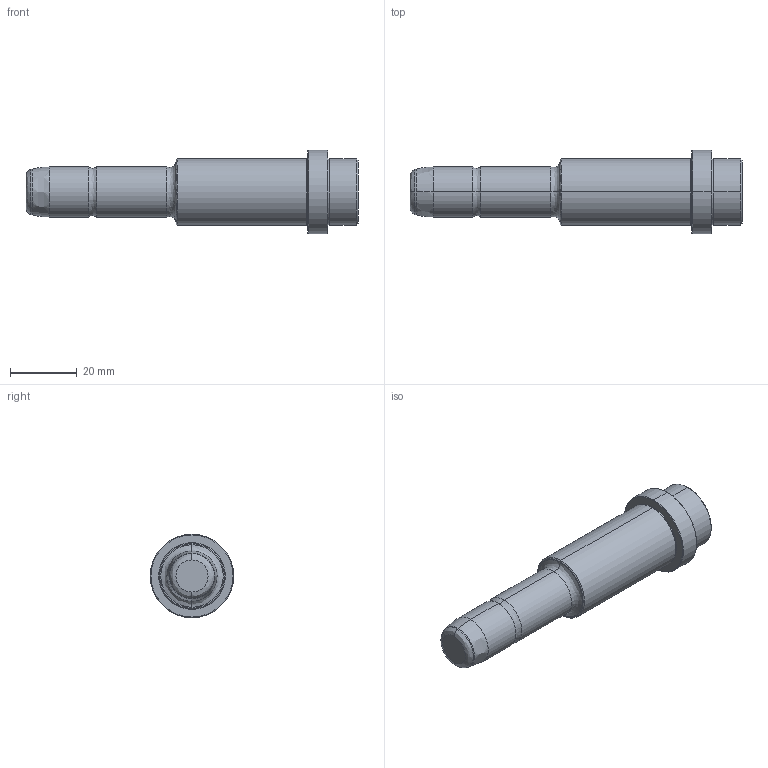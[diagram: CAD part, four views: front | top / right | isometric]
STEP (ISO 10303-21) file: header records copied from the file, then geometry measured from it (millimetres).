
FILE_DESCRIPTION (( 'STEP AP203' ), '1' );
FILE_NAME ('016 Colonne de Guidage.STEP', '2021-10-27T18:23:28', ( '' ), ( '' ), 'SwSTEP 2.0', 'SolidWorks 2019', '' );
FILE_SCHEMA (( 'CONFIG_CONTROL_DESIGN' ));
Length unit declared in the file: millimetre
Products named in the file (1): 016 Colonne de Guidage
Bounding box: 99.5 x 25 x 25 mm (x, y, z)
Volume: 25956.7 mm3; surface area: 6509.3 mm2
Topology: 1 solids, 1 shells, 39 faces, 88 edges, 56 vertices
Faces by surface type: bspline 18, cylinder 14, plane 7
Entity records: 1317 total; most frequent: CARTESIAN_POINT 374, DIRECTION 196, ORIENTED_EDGE 176, EDGE_CURVE 88, AXIS2_PLACEMENT_3D 86, CIRCLE 64, VERTEX_POINT 56, EDGE_LOOP 44
